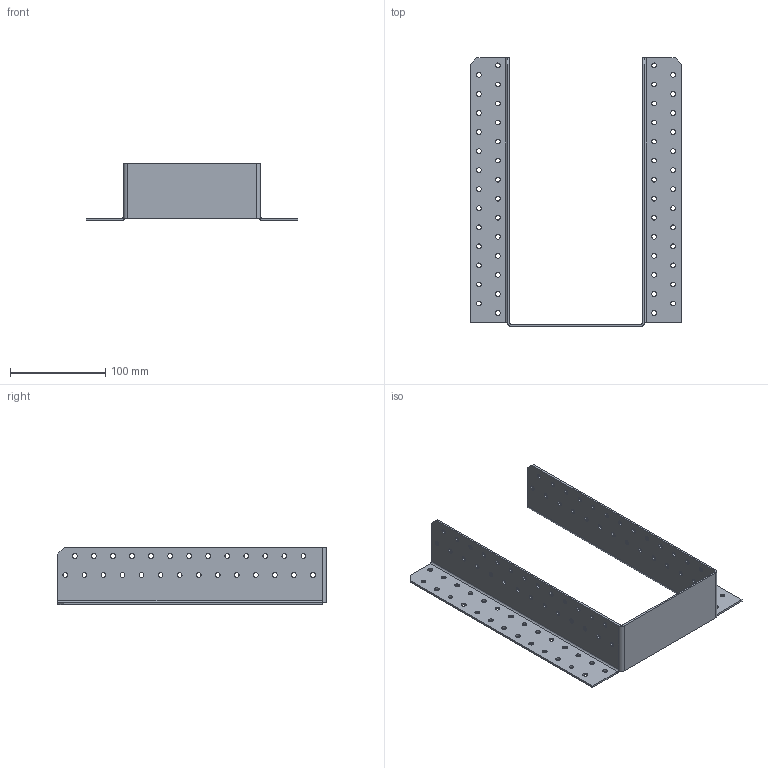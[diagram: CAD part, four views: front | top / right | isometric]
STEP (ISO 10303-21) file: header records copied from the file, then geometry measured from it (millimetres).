
FILE_DESCRIPTION (( 'STEP AP203' ), '1' );
FILE_NAME ('405102.STEP', '2021-04-17T16:56:48', ( '' ), ( '' ), 'SwSTEP 2.0', 'SolidWorks 2013', '' );
FILE_SCHEMA (( 'CONFIG_CONTROL_DESIGN' ));
Length unit declared in the file: millimetre
Products named in the file (1): 405102
Bounding box: 222 x 282 x 60 mm (x, y, z)
Volume: 121088.3 mm3; surface area: 127805.2 mm2
Topology: 1 solids, 1 shells, 260 faces, 744 edges, 486 vertices
Faces by surface type: cylinder 224, plane 36
Entity records: 9227 total; most frequent: DIRECTION 1716, CARTESIAN_POINT 1491, ORIENTED_EDGE 1488, EDGE_CURVE 744, AXIS2_PLACEMENT_3D 711, VERTEX_POINT 486, EDGE_LOOP 476, CIRCLE 450
